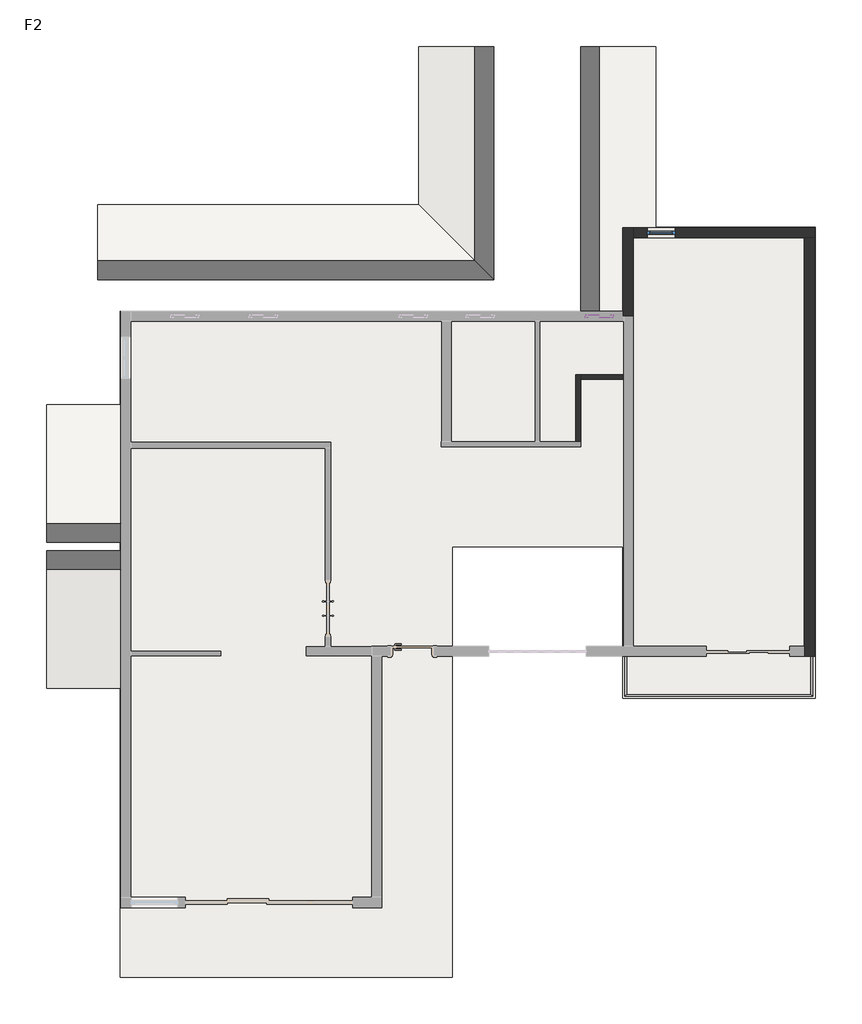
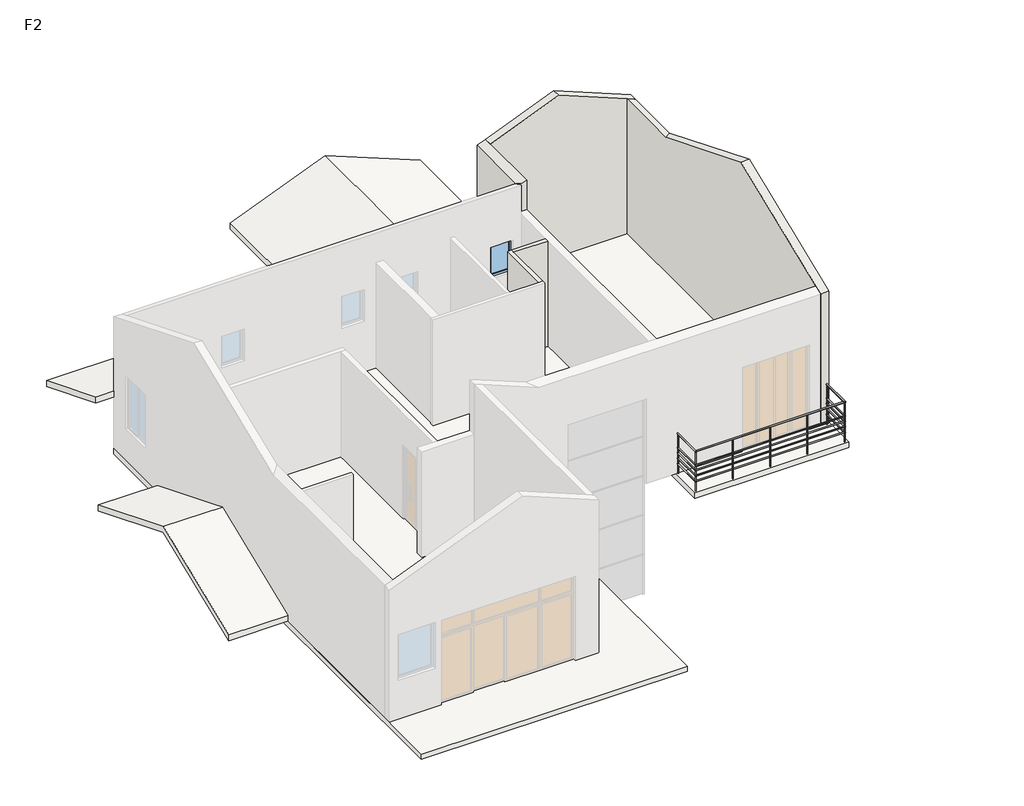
# One storey, part 2 of 2: 5 walls, 3 roofs, 2 windows, 1 railing, 1 slab.
"""IFC4 building model written with IfcOpenShell, lengths in millimetres."""

from ifc_helpers import new_model, si_unit, point, frame, frame_2d, origin, place, context, project, spatial, polyline, circle_curve, ellipse_curve, trimmed, segment, composite_curve, outline, extrude, faceted_brep, transform, mapped, element, save
from ifc_brep_helpers import plane_surface, cylinder_surface, advanced_brep
from components import c0615_c0609_9743c050, c0615_c0615_013a5557

model = new_model("IFC4")

# Units and contexts
model_context = context("Model", 3, world=origin())
ifc_project = project(units=[si_unit("LENGTHUNIT", "METRE", prefix="MILLI")], contexts=[model_context])

# Site, building, storey
site = spatial("IfcSite", under=ifc_project)
building = spatial("IfcBuilding", under=site)
storey = spatial("IfcBuildingStorey", under=building, Name="F2", Elevation=3300.0)

# Railing
placement = place(None, origin())
element("IfcRailing", 1, ObjectType="900mm 圆管", at=placement, inside=storey, context=model_context, shape_type="SolidModel", body=[
    advanced_brep(
    [(-2125.9782681, -8651.0286905, 4430.0), (-2085.9782681, -8651.0286905, 4430.0), (-2125.9782681, -9461.0286905, 4430.0), (-2085.9782681, -9501.0286905, 4430.0), (-6085.9782681, -9461.0286905, 4430.0), (-6125.9782681, -9501.0286905, 4430.0), (-6085.9782681, -8651.0286905, 4430.0), (-6125.9782681, -8651.0286905, 4430.0)],
    [
        (0, 1, circle_curve(frame((-2105.9782681, -8651.0286905, 4430.0), z_axis=(0.0, 1.0, 0.0), x_axis=(1.0, 0.0, 0.0)), 20.0)),
        (1, 0, circle_curve(frame((-2105.9782681, -8651.0286905, 4430.0), z_axis=(0.0, 1.0, 0.0), x_axis=(1.0, 0.0, 0.0)), 20.0)),
        (0, 2),
        (2, 3, ellipse_curve(frame((-2105.9782681, -9481.0286905, 4430.0), z_axis=(0.7071067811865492, 0.7071067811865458, 0.0), x_axis=(-0.7071067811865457, 0.7071067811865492, 0.0)), 28.2842712, 20.0)),
        (3, 1),
        (3, 2, ellipse_curve(frame((-2105.9782681, -9481.0286905, 4430.0), z_axis=(0.7071067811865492, 0.7071067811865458, 0.0), x_axis=(-0.7071067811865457, 0.7071067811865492, 0.0)), 28.2842712, 20.0)),
        (2, 4),
        (4, 5, ellipse_curve(frame((-6105.9782681, -9481.0286905, 4430.0), z_axis=(0.7071067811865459, -0.7071067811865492, 0.0), x_axis=(0.707106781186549, 0.7071067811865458, 0.0)), 28.2842712, 20.0)),
        (5, 3),
        (5, 4, ellipse_curve(frame((-6105.9782681, -9481.0286905, 4430.0), z_axis=(0.7071067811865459, -0.7071067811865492, 0.0), x_axis=(0.707106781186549, 0.7071067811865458, 0.0)), 28.2842712, 20.0)),
        (6, 7, circle_curve(frame((-6105.9782681, -8651.0286905, 4430.0), z_axis=(0.0, 1.0, 0.0), x_axis=(-1.0, 0.0, 0.0)), 20.0)),
        (7, 6, circle_curve(frame((-6105.9782681, -8651.0286905, 4430.0), z_axis=(0.0, 1.0, 0.0), x_axis=(-1.0, 0.0, 0.0)), 20.0)),
        (4, 6),
        (7, 5),
    ],
    [
        plane_surface(frame((-2105.9782681, -8651.0286905, 4450.0), z_axis=(0.0, 1.0, 0.0), x_axis=(0.0, 0.0, -1.0))),
        cylinder_surface(frame((-2105.9782681, -8651.0286905, 4430.0), z_axis=(0.0, 1.0, 0.0), x_axis=(1.0, 0.0, 0.0)), 20.0),
        cylinder_surface(frame((-2105.9782681, -9481.0286905, 4430.0), z_axis=(1.0, 0.0, 0.0), x_axis=(0.0, -1.0, 0.0)), 20.0),
        plane_surface(frame((-6105.9782681, -8651.0286905, 4450.0), z_axis=(0.0, 1.0, 0.0), x_axis=(0.0, 0.0, 1.0))),
        cylinder_surface(frame((-6105.9782681, -9481.0286905, 4430.0), z_axis=(0.0, -1.0, 0.0), x_axis=(-1.0, 0.0, 0.0)), 20.0),
    ],
    [
        (0, [[1, 2]]),
        (1, [[-1, 3, 4, 5]]),
        (1, [[-2, -5, 6, -3]]),
        (2, [[-4, 7, 8, 9]]),
        (2, [[-6, -9, 10, -7]]),
        (3, [[11, 12]]),
        (4, [[-8, 13, -12, 14]]),
        (4, [[-10, -14, -11, -13]]),
    ],
),
    advanced_brep(
    [(-2090.9782681, -8651.0286905, 4035.0), (-2120.9782681, -8651.0286905, 4035.0), (-2090.9782681, -9496.0286905, 4035.0), (-2120.9782681, -9466.0286905, 4035.0), (-6120.9782681, -9496.0286905, 4035.0), (-6090.9782681, -9466.0286905, 4035.0), (-6120.9782681, -8651.0286905, 4035.0), (-6090.9782681, -8651.0286905, 4035.0)],
    [
        (0, 1, circle_curve(frame((-2105.9782681, -8651.0286905, 4035.0), z_axis=(0.0, 1.0, 0.0), x_axis=(-1.0, 0.0, 0.0)), 15.0)),
        (1, 0, circle_curve(frame((-2105.9782681, -8651.0286905, 4035.0), z_axis=(0.0, 1.0, 0.0), x_axis=(-1.0, 0.0, 0.0)), 15.0)),
        (0, 2),
        (2, 3, ellipse_curve(frame((-2105.9782681, -9481.0286905, 4035.0), z_axis=(0.7071067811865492, 0.7071067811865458, 0.0), x_axis=(-0.7071067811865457, 0.7071067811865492, 0.0)), 21.2132034, 15.0)),
        (3, 1),
        (3, 2, ellipse_curve(frame((-2105.9782681, -9481.0286905, 4035.0), z_axis=(0.7071067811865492, 0.7071067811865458, 0.0), x_axis=(-0.7071067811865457, 0.7071067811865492, 0.0)), 21.2132034, 15.0)),
        (2, 4),
        (4, 5, ellipse_curve(frame((-6105.9782681, -9481.0286905, 4035.0), z_axis=(0.7071067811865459, -0.7071067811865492, 0.0), x_axis=(0.707106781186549, 0.7071067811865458, 0.0)), 21.2132034, 15.0)),
        (5, 3),
        (5, 4, ellipse_curve(frame((-6105.9782681, -9481.0286905, 4035.0), z_axis=(0.7071067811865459, -0.7071067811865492, 0.0), x_axis=(0.707106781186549, 0.7071067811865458, 0.0)), 21.2132034, 15.0)),
        (6, 7, circle_curve(frame((-6105.9782681, -8651.0286905, 4035.0), z_axis=(0.0, 1.0, 0.0), x_axis=(1.0, 0.0, 0.0)), 15.0)),
        (7, 6, circle_curve(frame((-6105.9782681, -8651.0286905, 4035.0), z_axis=(0.0, 1.0, 0.0), x_axis=(1.0, 0.0, 0.0)), 15.0)),
        (4, 6),
        (7, 5),
    ],
    [
        plane_surface(frame((-2105.9782681, -8651.0286905, 4050.0), z_axis=(0.0, 1.0, 0.0), x_axis=(0.0, 0.0, -1.0))),
        cylinder_surface(frame((-2105.9782681, -8651.0286905, 4035.0), z_axis=(0.0, 1.0, 0.0), x_axis=(-1.0, 0.0, 0.0)), 15.0),
        cylinder_surface(frame((-2105.9782681, -9481.0286905, 4035.0), z_axis=(1.0, 0.0, 0.0), x_axis=(0.0, 1.0, 0.0)), 15.0),
        plane_surface(frame((-6105.9782681, -8651.0286905, 4050.0), z_axis=(0.0, 1.0, 0.0), x_axis=(0.0, 0.0, 1.0))),
        cylinder_surface(frame((-6105.9782681, -9481.0286905, 4035.0), z_axis=(0.0, -1.0, 0.0), x_axis=(1.0, 0.0, 0.0)), 15.0),
    ],
    [
        (0, [[1, 2]]),
        (1, [[-1, 3, 4, 5]]),
        (1, [[-2, -5, 6, -3]]),
        (2, [[-4, 7, 8, 9]]),
        (2, [[-6, -9, 10, -7]]),
        (3, [[11, 12]]),
        (4, [[-8, 13, -12, 14]]),
        (4, [[-10, -14, -11, -13]]),
    ],
),
    advanced_brep(
    [(-2090.9782681, -8651.0286905, 3885.0), (-2120.9782681, -8651.0286905, 3885.0), (-2090.9782681, -9496.0286905, 3885.0), (-2120.9782681, -9466.0286905, 3885.0), (-6120.9782681, -9496.0286905, 3885.0), (-6090.9782681, -9466.0286905, 3885.0), (-6120.9782681, -8651.0286905, 3885.0), (-6090.9782681, -8651.0286905, 3885.0)],
    [
        (0, 1, circle_curve(frame((-2105.9782681, -8651.0286905, 3885.0), z_axis=(0.0, 1.0, 0.0), x_axis=(-1.0, 0.0, 0.0)), 15.0)),
        (1, 0, circle_curve(frame((-2105.9782681, -8651.0286905, 3885.0), z_axis=(0.0, 1.0, 0.0), x_axis=(-1.0, 0.0, 0.0)), 15.0)),
        (0, 2),
        (2, 3, ellipse_curve(frame((-2105.9782681, -9481.0286905, 3885.0), z_axis=(0.7071067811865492, 0.7071067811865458, 0.0), x_axis=(-0.7071067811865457, 0.7071067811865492, 0.0)), 21.2132034, 15.0)),
        (3, 1),
        (3, 2, ellipse_curve(frame((-2105.9782681, -9481.0286905, 3885.0), z_axis=(0.7071067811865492, 0.7071067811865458, 0.0), x_axis=(-0.7071067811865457, 0.7071067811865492, 0.0)), 21.2132034, 15.0)),
        (2, 4),
        (4, 5, ellipse_curve(frame((-6105.9782681, -9481.0286905, 3885.0), z_axis=(0.7071067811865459, -0.7071067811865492, 0.0), x_axis=(0.707106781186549, 0.7071067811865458, 0.0)), 21.2132034, 15.0)),
        (5, 3),
        (5, 4, ellipse_curve(frame((-6105.9782681, -9481.0286905, 3885.0), z_axis=(0.7071067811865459, -0.7071067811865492, 0.0), x_axis=(0.707106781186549, 0.7071067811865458, 0.0)), 21.2132034, 15.0)),
        (6, 7, circle_curve(frame((-6105.9782681, -8651.0286905, 3885.0), z_axis=(0.0, 1.0, 0.0), x_axis=(1.0, 0.0, 0.0)), 15.0)),
        (7, 6, circle_curve(frame((-6105.9782681, -8651.0286905, 3885.0), z_axis=(0.0, 1.0, 0.0), x_axis=(1.0, 0.0, 0.0)), 15.0)),
        (4, 6),
        (7, 5),
    ],
    [
        plane_surface(frame((-2105.9782681, -8651.0286905, 3900.0), z_axis=(0.0, 1.0, 0.0), x_axis=(0.0, 0.0, -1.0))),
        cylinder_surface(frame((-2105.9782681, -8651.0286905, 3885.0), z_axis=(0.0, 1.0, 0.0), x_axis=(-1.0, 0.0, 0.0)), 15.0),
        cylinder_surface(frame((-2105.9782681, -9481.0286905, 3885.0), z_axis=(1.0, 0.0, 0.0), x_axis=(0.0, 1.0, 0.0)), 15.0),
        plane_surface(frame((-6105.9782681, -8651.0286905, 3900.0), z_axis=(0.0, 1.0, 0.0), x_axis=(0.0, 0.0, 1.0))),
        cylinder_surface(frame((-6105.9782681, -9481.0286905, 3885.0), z_axis=(0.0, -1.0, 0.0), x_axis=(1.0, 0.0, 0.0)), 15.0),
    ],
    [
        (0, [[1, 2]]),
        (1, [[-1, 3, 4, 5]]),
        (1, [[-2, -5, 6, -3]]),
        (2, [[-4, 7, 8, 9]]),
        (2, [[-6, -9, 10, -7]]),
        (3, [[11, 12]]),
        (4, [[-8, 13, -12, 14]]),
        (4, [[-10, -14, -11, -13]]),
    ],
),
    advanced_brep(
    [(-2090.9782681, -8651.0286905, 3735.0), (-2120.9782681, -8651.0286905, 3735.0), (-2090.9782681, -9496.0286905, 3735.0), (-2120.9782681, -9466.0286905, 3735.0), (-6120.9782681, -9496.0286905, 3735.0), (-6090.9782681, -9466.0286905, 3735.0), (-6120.9782681, -8651.0286905, 3735.0), (-6090.9782681, -8651.0286905, 3735.0)],
    [
        (0, 1, circle_curve(frame((-2105.9782681, -8651.0286905, 3735.0), z_axis=(0.0, 1.0, 0.0), x_axis=(-1.0, 0.0, 0.0)), 15.0)),
        (1, 0, circle_curve(frame((-2105.9782681, -8651.0286905, 3735.0), z_axis=(0.0, 1.0, 0.0), x_axis=(-1.0, 0.0, 0.0)), 15.0)),
        (0, 2),
        (2, 3, ellipse_curve(frame((-2105.9782681, -9481.0286905, 3735.0), z_axis=(0.7071067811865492, 0.7071067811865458, 0.0), x_axis=(-0.7071067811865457, 0.7071067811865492, 0.0)), 21.2132034, 15.0)),
        (3, 1),
        (3, 2, ellipse_curve(frame((-2105.9782681, -9481.0286905, 3735.0), z_axis=(0.7071067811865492, 0.7071067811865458, 0.0), x_axis=(-0.7071067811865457, 0.7071067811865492, 0.0)), 21.2132034, 15.0)),
        (2, 4),
        (4, 5, ellipse_curve(frame((-6105.9782681, -9481.0286905, 3735.0), z_axis=(0.7071067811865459, -0.7071067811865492, 0.0), x_axis=(0.707106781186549, 0.7071067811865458, 0.0)), 21.2132034, 15.0)),
        (5, 3),
        (5, 4, ellipse_curve(frame((-6105.9782681, -9481.0286905, 3735.0), z_axis=(0.7071067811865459, -0.7071067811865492, 0.0), x_axis=(0.707106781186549, 0.7071067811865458, 0.0)), 21.2132034, 15.0)),
        (6, 7, circle_curve(frame((-6105.9782681, -8651.0286905, 3735.0), z_axis=(0.0, 1.0, 0.0), x_axis=(1.0, 0.0, 0.0)), 15.0)),
        (7, 6, circle_curve(frame((-6105.9782681, -8651.0286905, 3735.0), z_axis=(0.0, 1.0, 0.0), x_axis=(1.0, 0.0, 0.0)), 15.0)),
        (4, 6),
        (7, 5),
    ],
    [
        plane_surface(frame((-2105.9782681, -8651.0286905, 3750.0), z_axis=(0.0, 1.0, 0.0), x_axis=(0.0, 0.0, -1.0))),
        cylinder_surface(frame((-2105.9782681, -8651.0286905, 3735.0), z_axis=(0.0, 1.0, 0.0), x_axis=(-1.0, 0.0, 0.0)), 15.0),
        cylinder_surface(frame((-2105.9782681, -9481.0286905, 3735.0), z_axis=(1.0, 0.0, 0.0), x_axis=(0.0, 1.0, 0.0)), 15.0),
        plane_surface(frame((-6105.9782681, -8651.0286905, 3750.0), z_axis=(0.0, 1.0, 0.0), x_axis=(0.0, 0.0, 1.0))),
        cylinder_surface(frame((-6105.9782681, -9481.0286905, 3735.0), z_axis=(0.0, -1.0, 0.0), x_axis=(1.0, 0.0, 0.0)), 15.0),
    ],
    [
        (0, [[1, 2]]),
        (1, [[-1, 3, 4, 5]]),
        (1, [[-2, -5, 6, -3]]),
        (2, [[-4, 7, 8, 9]]),
        (2, [[-6, -9, 10, -7]]),
        (3, [[11, 12]]),
        (4, [[-8, 13, -12, 14]]),
        (4, [[-10, -14, -11, -13]]),
    ],
),
    advanced_brep(
    [(-2090.9782681, -8651.0286905, 3573.0), (-2120.9782681, -8651.0286905, 3573.0), (-2090.9782681, -9496.0286905, 3573.0), (-2120.9782681, -9466.0286905, 3573.0), (-6120.9782681, -9496.0286905, 3573.0), (-6090.9782681, -9466.0286905, 3573.0), (-6120.9782681, -8651.0286905, 3573.0), (-6090.9782681, -8651.0286905, 3573.0)],
    [
        (0, 1, circle_curve(frame((-2105.9782681, -8651.0286905, 3573.0), z_axis=(0.0, 1.0, 0.0), x_axis=(-1.0, 0.0, 0.0)), 15.0)),
        (1, 0, circle_curve(frame((-2105.9782681, -8651.0286905, 3573.0), z_axis=(0.0, 1.0, 0.0), x_axis=(-1.0, 0.0, 0.0)), 15.0)),
        (0, 2),
        (2, 3, ellipse_curve(frame((-2105.9782681, -9481.0286905, 3573.0), z_axis=(0.7071067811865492, 0.7071067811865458, 0.0), x_axis=(-0.7071067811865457, 0.7071067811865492, 0.0)), 21.2132034, 15.0)),
        (3, 1),
        (3, 2, ellipse_curve(frame((-2105.9782681, -9481.0286905, 3573.0), z_axis=(0.7071067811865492, 0.7071067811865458, 0.0), x_axis=(-0.7071067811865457, 0.7071067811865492, 0.0)), 21.2132034, 15.0)),
        (2, 4),
        (4, 5, ellipse_curve(frame((-6105.9782681, -9481.0286905, 3573.0), z_axis=(0.7071067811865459, -0.7071067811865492, 0.0), x_axis=(0.707106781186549, 0.7071067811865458, 0.0)), 21.2132034, 15.0)),
        (5, 3),
        (5, 4, ellipse_curve(frame((-6105.9782681, -9481.0286905, 3573.0), z_axis=(0.7071067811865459, -0.7071067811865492, 0.0), x_axis=(0.707106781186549, 0.7071067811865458, 0.0)), 21.2132034, 15.0)),
        (6, 7, circle_curve(frame((-6105.9782681, -8651.0286905, 3573.0), z_axis=(0.0, 1.0, 0.0), x_axis=(1.0, 0.0, 0.0)), 15.0)),
        (7, 6, circle_curve(frame((-6105.9782681, -8651.0286905, 3573.0), z_axis=(0.0, 1.0, 0.0), x_axis=(1.0, 0.0, 0.0)), 15.0)),
        (4, 6),
        (7, 5),
    ],
    [
        plane_surface(frame((-2105.9782681, -8651.0286905, 3588.0), z_axis=(0.0, 1.0, 0.0), x_axis=(0.0, 0.0, -1.0))),
        cylinder_surface(frame((-2105.9782681, -8651.0286905, 3573.0), z_axis=(0.0, 1.0, 0.0), x_axis=(-1.0, 0.0, 0.0)), 15.0),
        cylinder_surface(frame((-2105.9782681, -9481.0286905, 3573.0), z_axis=(1.0, 0.0, 0.0), x_axis=(0.0, 1.0, 0.0)), 15.0),
        plane_surface(frame((-6105.9782681, -8651.0286905, 3588.0), z_axis=(0.0, 1.0, 0.0), x_axis=(0.0, 0.0, 1.0))),
        cylinder_surface(frame((-6105.9782681, -9481.0286905, 3573.0), z_axis=(0.0, -1.0, 0.0), x_axis=(1.0, 0.0, 0.0)), 15.0),
    ],
    [
        (0, [[1, 2]]),
        (1, [[-1, 3, 4, 5]]),
        (1, [[-2, -5, 6, -3]]),
        (2, [[-4, 7, 8, 9]]),
        (2, [[-6, -9, 10, -7]]),
        (3, [[11, 12]]),
        (4, [[-8, 13, -12, 14]]),
        (4, [[-10, -14, -11, -13]]),
    ],
),
    extrude(outline(composite_curve([segment(trimmed(circle_curve(frame_2d((-5105.9782681, -9481.0286905)), 12.5), [point((-5105.9782681, -9493.5286905))], [point((-5105.9782681, -9468.5286905))], False, "CARTESIAN"), True, "CONTINUOUS"), segment(trimmed(circle_curve(frame_2d((-5105.9782681, -9481.0286905)), 12.5), [point((-5105.9782681, -9468.5286905))], [point((-5105.9782681, -9493.5286905))], False, "CARTESIAN"), True, "CONTINUOUS")], self_intersect=False)), frame((0.0, 0.0, 3300.0), z_axis=(0.0, 0.0, 1.0), x_axis=(1.0, 0.0, 0.0)), (0.0, 0.0, 1.0), 1110.0),
    extrude(outline(composite_curve([segment(trimmed(circle_curve(frame_2d((-4105.9782681, -9481.0286905)), 12.5), [point((-4105.9782681, -9493.5286905))], [point((-4105.9782681, -9468.5286905))], False, "CARTESIAN"), True, "CONTINUOUS"), segment(trimmed(circle_curve(frame_2d((-4105.9782681, -9481.0286905)), 12.5), [point((-4105.9782681, -9468.5286905))], [point((-4105.9782681, -9493.5286905))], False, "CARTESIAN"), True, "CONTINUOUS")], self_intersect=False)), frame((0.0, 0.0, 3300.0), z_axis=(0.0, 0.0, 1.0), x_axis=(1.0, 0.0, 0.0)), (0.0, 0.0, 1.0), 1110.0),
    extrude(outline(composite_curve([segment(trimmed(circle_curve(frame_2d((-3105.9782681, -9481.0286905)), 12.5), [point((-3105.9782681, -9493.5286905))], [point((-3105.9782681, -9468.5286905))], False, "CARTESIAN"), True, "CONTINUOUS"), segment(trimmed(circle_curve(frame_2d((-3105.9782681, -9481.0286905)), 12.5), [point((-3105.9782681, -9468.5286905))], [point((-3105.9782681, -9493.5286905))], False, "CARTESIAN"), True, "CONTINUOUS")], self_intersect=False)), frame((0.0, 0.0, 3300.0), z_axis=(0.0, 0.0, 1.0), x_axis=(1.0, 0.0, 0.0)), (0.0, 0.0, 1.0), 1110.0),
    extrude(outline(composite_curve([segment(trimmed(circle_curve(frame_2d((-6105.9782681, -9481.0286905)), 12.5), [point((-6105.9782681, -9493.5286905))], [point((-6105.9782681, -9468.5286905))], False, "CARTESIAN"), True, "CONTINUOUS"), segment(trimmed(circle_curve(frame_2d((-6105.9782681, -9481.0286905)), 12.5), [point((-6105.9782681, -9468.5286905))], [point((-6105.9782681, -9493.5286905))], False, "CARTESIAN"), True, "CONTINUOUS")], self_intersect=False)), frame((0.0, 0.0, 3300.0), z_axis=(0.0, 0.0, 1.0), x_axis=(1.0, 0.0, 0.0)), (0.0, 0.0, 1.0), 1110.0),
    extrude(outline(composite_curve([segment(trimmed(circle_curve(frame_2d((-2105.9782681, -9481.0286905)), 12.5), [point((-2093.4782681, -9481.0286905))], [point((-2118.4782681, -9481.0286905))], False, "CARTESIAN"), True, "CONTINUOUS"), segment(trimmed(circle_curve(frame_2d((-2105.9782681, -9481.0286905)), 12.5), [point((-2118.4782681, -9481.0286905))], [point((-2093.4782681, -9481.0286905))], False, "CARTESIAN"), True, "CONTINUOUS")], self_intersect=False)), frame((0.0, 0.0, 3300.0), z_axis=(0.0, 0.0, 1.0), x_axis=(1.0, 0.0, 0.0)), (0.0, 0.0, 1.0), 1110.0),
    extrude(outline(composite_curve([segment(trimmed(circle_curve(frame_2d((-6105.9782681, -8663.5286905)), 12.5), [point((-6118.4782681, -8663.5286905))], [point((-6093.4782681, -8663.5286905))], False, "CARTESIAN"), True, "CONTINUOUS"), segment(trimmed(circle_curve(frame_2d((-6105.9782681, -8663.5286905)), 12.5), [point((-6093.4782681, -8663.5286905))], [point((-6118.4782681, -8663.5286905))], False, "CARTESIAN"), True, "CONTINUOUS")], self_intersect=False)), frame((0.0, 0.0, 3300.0), z_axis=(0.0, 0.0, 1.0), x_axis=(1.0, 0.0, 0.0)), (0.0, 0.0, 1.0), 1110.0),
    extrude(outline(composite_curve([segment(trimmed(circle_curve(frame_2d((-2105.9782681, -8663.5286905)), 12.5), [point((-2093.4782681, -8663.5286905))], [point((-2118.4782681, -8663.5286905))], False, "CARTESIAN"), True, "CONTINUOUS"), segment(trimmed(circle_curve(frame_2d((-2105.9782681, -8663.5286905)), 12.5), [point((-2118.4782681, -8663.5286905))], [point((-2093.4782681, -8663.5286905))], False, "CARTESIAN"), True, "CONTINUOUS")], self_intersect=False)), frame((0.0, 0.0, 3300.0), z_axis=(0.0, 0.0, 1.0), x_axis=(1.0, 0.0, 0.0)), (0.0, 0.0, 1.0), 1110.0),
])

# Roofs
element("IfcRoof", 2, ObjectType="屋顶 2", at=placement, inside=storey, context=model_context, shape_type="Brep", body=[
    faceted_brep([(-8005.9782681, 4468.9713095, 4877.6783925), (-5455.9782681, 4468.9713095, 3847.4115166), (-5455.9782681, 588.9713095, 3847.4115166), (-6175.9782681, 588.9713095, 4138.3103992), (-6175.9782681, -1221.0286905, 4138.3103992), (-8005.9782681, -1221.0286905, 4877.6783925), (-10555.9782681, 1068.9713095, 3847.4115166), (-10555.9782681, 4468.9713095, 3847.4115166), (-8265.9782681, -1221.0286905, 4772.6315738), (-5455.9782681, 4468.9713095, 4011.7802114), (-8005.9782681, 4468.9713095, 5042.0470873), (-8005.9782681, -1221.0286905, 5042.0470873), (-6175.9782681, -1221.0286905, 4302.679094), (-6175.9782681, 588.9713095, 4302.679094), (-5455.9782681, 588.9713095, 4011.7802114), (-10555.9782681, 4468.9713095, 4011.7802114), (-10555.9782681, 1068.9713095, 4011.7802114), (-8265.9782681, -1221.0286905, 4937.0002686)], [[[0, 1, 2, 3, 4, 5]], [[6, 7, 0, 5, 8]], [[9, 10, 11, 12, 13, 14]], [[15, 16, 17, 11, 10]], [[6, 16, 15, 7]], [[1, 9, 14, 2]], [[15, 10, 9, 1, 0, 7]], [[14, 13, 3, 2]], [[13, 12, 4, 3]], [[12, 11, 17, 8, 5, 4]], [[17, 16, 6, 8]]]),
])
element("IfcRoof", 3, ObjectType="屋顶 2", at=placement, inside=storey, context=model_context, shape_type="Brep", body=[
    faceted_brep([(-10555.9782681, 1068.9713095, 3847.4115166), (-8265.9782681, -1221.0286905, 4772.6315738), (-17455.9782681, -1221.0286905, 4772.6315738), (-17455.9782681, 1068.9713095, 3847.4115166), (-8265.9782681, -1221.0286905, 4937.0002686), (-10555.9782681, 1068.9713095, 4011.7802114), (-17455.9782681, 1068.9713095, 4011.7802114), (-17455.9782681, -1221.0286905, 4937.0002686)], [[[0, 1, 2, 3]], [[4, 5, 6, 7]], [[3, 6, 5, 0]], [[5, 4, 1, 0]], [[4, 7, 2, 1]], [[7, 6, 3, 2]]]),
])
element("IfcRoof", 4, ObjectType="屋顶 2", at=placement, inside=storey, context=model_context, shape_type="SweptSolid", body=[
    extrude(outline(polyline([(-9321.0286905, 3473.4754526), (-6277.4626315, 4703.1559604), (-3233.8965726, 3473.4754526), (-3233.8965726, 3309.1067578), (-6277.4626315, 4538.7872656), (-9321.0286905, 3309.1067578), (-9321.0286905, 3473.4754526)])), frame((-18555.9782681, 0.0, 0.0), z_axis=(1.0, 0.0, 0.0), x_axis=(0.0, 1.0, 0.0)), (0.0, 0.0, 1.0), 1600.0),
])

# Slab
element("IfcSlab", 5, ObjectType="常规 - 150mm", at=placement, inside=storey, context=model_context, shape_type="SweptSolid", body=[
    extrude(outline(polyline([(-9835.9782681, -15541.0286905), (-16975.9782681, -15541.0286905), (-16975.9782681, -1221.0286905), (-6175.9782681, -1221.0286905), (-6175.9782681, 588.9713095), (-2035.9782681, 588.9713095), (-2035.9782681, -9541.0286905), (-6165.9782681, -9541.0286905), (-6165.9782681, -6281.0286905), (-9835.9782681, -6281.0286905), (-9835.9782681, -15541.0286905)])), frame((0.0, 0.0, 3150.0), z_axis=(0.0, 0.0, 1.0), x_axis=(1.0, 0.0, 0.0)), (0.0, 0.0, 1.0), 150.0),
])

# Walls
element("IfcWall", 6, ObjectType="常规 - 100mm 砌体", at=placement, inside=storey, context=model_context, shape_type="Brep", body=[
    faceted_brep([(-7075.9782681, -4031.0286905, 3300.0), (-7075.9782681, -2681.0286905, 3300.0), (-7075.9782681, -2581.0286905, 3300.0), (-7075.9782681, -2581.0286905, 6300.0), (-7075.9782681, -2681.0286905, 6300.0), (-7075.9782681, -4031.0286905, 6300.0), (-7175.9782681, -4031.0286905, 3300.0), (-7175.9782681, -4031.0286905, 6300.0), (-7175.9782681, -2581.0286905, 6300.0), (-7175.9782681, -2581.0286905, 3300.0)], [[[0, 1, 2, 3, 4, 5]], [[6, 7, 8, 9]], [[2, 1, 0, 6, 9]], [[5, 4, 3, 8, 7]], [[0, 5, 7, 6]], [[3, 2, 9, 8]]]),
])
element("IfcWall", 7, ObjectType="常规 - 100mm 砌体", at=placement, inside=storey, context=model_context, shape_type="SweptSolid", body=[
    extrude(outline(polyline([(-6145.9782681, -2681.0286905), (-7075.9782681, -2681.0286905), (-7075.9782681, -2581.0286905), (-6145.9782681, -2581.0286905), (-6145.9782681, -2681.0286905)])), frame((0.0, 0.0, 3300.0), z_axis=(0.0, 0.0, 1.0), x_axis=(1.0, 0.0, 0.0)), (0.0, 0.0, 1.0), 3000.0),
])
element("IfcWall", 8, ObjectType="F2", at=placement, inside=storey, context=model_context, shape_type="Brep", body=[
    faceted_brep([(-5945.9782681, -1331.0286905, 3300.0), (-5945.9782681, 358.9713095, 3300.0), (-5945.9782681, 578.9713095, 3300.0), (-5945.9782681, 578.9713095, 7134.270137), (-5945.9782681, 358.9713095, 7134.270137), (-5945.9782681, -1331.0286905, 7134.270137), (-5945.9782681, -1331.0286905, 6300.0), (-6165.9782681, -1331.0286905, 3300.0), (-6165.9782681, -1331.0286905, 7089.8272521), (-6165.9782681, -1221.0286905, 7045.3843673), (-6165.9782681, 578.9713095, 7045.3843673), (-6165.9782681, 578.9713095, 3300.0), (-6165.9782681, -1221.0286905, 3300.0), (-6145.9782681, -1331.0286905, 3300.0), (-6055.9782681, -1331.0286905, 7089.8272521), (-6145.9782681, -1331.0286905, 7089.8272521)], [[[0, 1, 2, 3, 4, 5, 6]], [[7, 8, 9, 10, 11, 12]], [[2, 1, 0, 13, 7, 12, 11]], [[0, 6, 5, 14, 15, 8, 7, 13]], [[3, 2, 11, 10]], [[5, 4, 3, 10, 9, 14]], [[9, 8, 15, 14]]]),
])
element("IfcWall", 9, ObjectType="F2", at=placement, inside=storey, context=model_context, shape_type="Brep", body=[
    faceted_brep([(-5945.9782681, 358.9713095, 3300.0), (-2265.9782681, 358.9713095, 3300.0), (-2045.9782681, 358.9713095, 3300.0), (-2045.9782681, 358.9713095, 7045.3843673), (-2265.9782681, 358.9713095, 7134.270137), (-4105.9782681, 358.9713095, 7877.6783925), (-5945.9782681, 358.9713095, 7134.270137), (-5045.9782681, 358.9713095, 4200.0), (-5645.9782681, 358.9713095, 4200.0), (-5645.9782681, 358.9713095, 5700.0), (-5045.9782681, 358.9713095, 5700.0), (-5945.9782681, 578.9713095, 3300.0), (-5945.9782681, 578.9713095, 7134.270137), (-4105.9782681, 578.9713095, 7877.6783925), (-2045.9782681, 578.9713095, 7045.3843673), (-2045.9782681, 578.9713095, 3300.0), (-5045.9782681, 578.9713095, 4200.0), (-5045.9782681, 578.9713095, 5700.0), (-5645.9782681, 578.9713095, 5700.0), (-5645.9782681, 578.9713095, 4200.0)], [[[0, 1, 2, 3, 4, 5, 6], [7, 8, 9, 10]], [[11, 12, 13, 14, 15], [16, 17, 18, 19]], [[2, 1, 0, 11, 15]], [[0, 6, 12, 11]], [[3, 2, 15, 14]], [[17, 16, 7, 10]], [[18, 17, 10, 9]], [[19, 18, 9, 8]], [[16, 19, 8, 7]], [[6, 5, 13, 12]], [[5, 4, 3, 14, 13]]]),
])
element("IfcWall", 10, ObjectType="F2", at=placement, inside=storey, context=model_context, shape_type="Brep", body=[
    faceted_brep([(-2265.9782681, 358.9713095, 3300.0), (-2265.9782681, -8421.0286905, 3300.0), (-2265.9782681, -8641.0286905, 3300.0), (-2265.9782681, -8641.0286905, 7045.3843673), (-2265.9782681, -8421.0286905, 7134.270137), (-2265.9782681, -4931.0286905, 8544.3216651), (-2265.9782681, -1441.0286905, 7134.270137), (-2265.9782681, 358.9713095, 7134.270137), (-2045.9782681, 358.9713095, 3300.0), (-2045.9782681, 358.9713095, 7045.3843673), (-2045.9782681, -1221.0286905, 7045.3843673), (-2045.9782681, -4931.0286905, 8544.3216651), (-2045.9782681, -8641.0286905, 7045.3843673), (-2045.9782681, -8641.0286905, 3300.0)], [[[0, 1, 2, 3, 4, 5, 6, 7]], [[8, 9, 10, 11, 12, 13]], [[2, 1, 0, 8, 13]], [[0, 7, 9, 8]], [[3, 2, 13, 12]], [[7, 6, 10, 9]], [[6, 5, 11, 10]], [[5, 4, 3, 12, 11]]]),
])

# Windows
c0615_c0609_shape = c0615_c0609_9743c050(model_context)
element("IfcWindow", 11, ObjectType="C0615 : C0609", at=placement, inside=storey, context=model_context, shape_type="MappedRepresentation", body=[
    mapped(c0615_c0609_shape, transform((-6675.9782681, -1331.0286905, 3300.0), x_axis=(1.0, 0.0, 0.0), y_axis=(0.0, 1.0, 0.0), z_axis=(0.0, 0.0, 1.0))),
])
c0615_c0615_shape = c0615_c0615_013a5557(model_context)
element("IfcWindow", 12, ObjectType="C0615 : C0615", at=placement, inside=storey, context=model_context, shape_type="MappedRepresentation", body=[
    mapped(c0615_c0615_shape, transform((-5345.9782681, 468.9713095, 2750.0), x_axis=(-1.0, 0.0, 0.0), y_axis=(0.0, -1.0, 0.0), z_axis=(0.0, 0.0, 1.0))),
])

save(model, "model.ifc")
